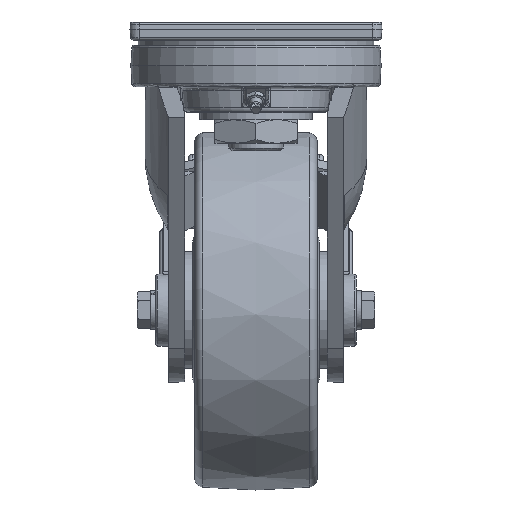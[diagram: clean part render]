
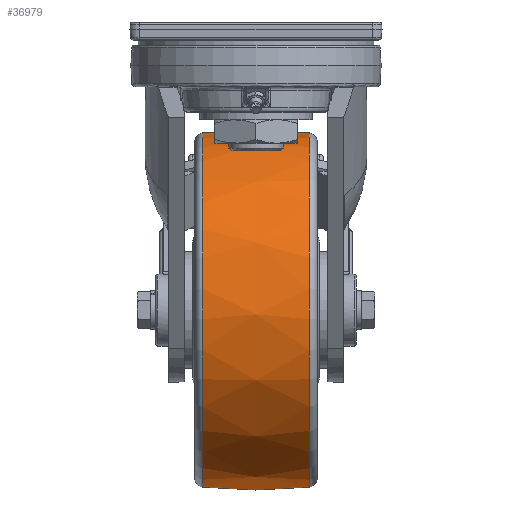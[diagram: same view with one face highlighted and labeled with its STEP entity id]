
A CAD part, left-side view. The second image highlights one B-rep face of the part: STEP entity #36979.
In plain terms, the highlighted free-form (B-spline) face has degree [2, 2] with [3, 9] control points.
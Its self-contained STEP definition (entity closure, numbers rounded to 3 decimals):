
#19=(
BOUNDED_SURFACE()
B_SPLINE_SURFACE(2,2,((#52536,#52537,#52538,#52539,#52540,#52541,#52542,
#52543,#52544),(#52545,#52546,#52547,#52548,#52549,#52550,#52551,#52552,
#52553),(#52554,#52555,#52556,#52557,#52558,#52559,#52560,#52561,#52562)),
 .UNSPECIFIED.,.F.,.T.,.F.)
B_SPLINE_SURFACE_WITH_KNOTS((3,3),(3,2,2,2,3),(-0.098,0.098),
(-3.142,-1.571,0.,1.571,3.142),
 .UNSPECIFIED.)
GEOMETRIC_REPRESENTATION_ITEM()
RATIONAL_B_SPLINE_SURFACE(((1.,0.707,1.,0.707,1.,
0.707,1.,0.707,1.),(0.995,0.704,
0.995,0.704,0.995,0.704,
0.995,0.704,0.995),(1.,0.707,
1.,0.707,1.,0.707,1.,0.707,1.)))
REPRESENTATION_ITEM('')
SURFACE()
);
#10045=FACE_OUTER_BOUND('',#12205,.T.);
#12205=EDGE_LOOP('',(#26398,#26399,#26400,#26401,#26402,#26403));
#14170=CIRCLE('',#39141,98.547);
#14171=CIRCLE('',#39142,98.547);
#14172=CIRCLE('',#39143,300.);
#14173=CIRCLE('',#39144,98.547);
#14174=CIRCLE('',#39145,98.547);
#15472=VERTEX_POINT('',#52531);
#15473=VERTEX_POINT('',#52533);
#15474=VERTEX_POINT('',#52563);
#15475=VERTEX_POINT('',#52565);
#19602=EDGE_CURVE('',#15472,#15473,#14170,.T.);
#19603=EDGE_CURVE('',#15473,#15472,#14171,.T.);
#19604=EDGE_CURVE('',#15472,#15474,#14172,.T.);
#19605=EDGE_CURVE('',#15474,#15475,#14173,.T.);
#19606=EDGE_CURVE('',#15475,#15474,#14174,.T.);
#26398=ORIENTED_EDGE('',*,*,#19603,.F.);
#26399=ORIENTED_EDGE('',*,*,#19602,.F.);
#26400=ORIENTED_EDGE('',*,*,#19604,.T.);
#26401=ORIENTED_EDGE('',*,*,#19605,.T.);
#26402=ORIENTED_EDGE('',*,*,#19606,.T.);
#26403=ORIENTED_EDGE('',*,*,#19604,.F.);
#36979=ADVANCED_FACE('',(#10045),#19,.F.);
#39141=AXIS2_PLACEMENT_3D('',#52534,#42323,#42324);
#39142=AXIS2_PLACEMENT_3D('',#52535,#42325,#42326);
#39143=AXIS2_PLACEMENT_3D('',#52564,#42327,#42328);
#39144=AXIS2_PLACEMENT_3D('',#52566,#42329,#42330);
#39145=AXIS2_PLACEMENT_3D('',#52567,#42331,#42332);
#42323=DIRECTION('center_axis',(0.,1.,0.));
#42324=DIRECTION('ref_axis',(-0.921,0.,-0.391));
#42325=DIRECTION('center_axis',(0.,1.,0.));
#42326=DIRECTION('ref_axis',(-0.921,0.,-0.391));
#42327=DIRECTION('center_axis',(0.391,0.,
-0.921));
#42328=DIRECTION('ref_axis',(0.921,0.,0.391));
#42329=DIRECTION('center_axis',(0.,1.,0.));
#42330=DIRECTION('ref_axis',(-0.921,0.,-0.391));
#42331=DIRECTION('center_axis',(0.,1.,0.));
#42332=DIRECTION('ref_axis',(-0.921,0.,-0.391));
#52531=CARTESIAN_POINT('',(165.721,29.492,-117.514));
#52533=CARTESIAN_POINT('',(36.514,29.492,-65.279));
#52534=CARTESIAN_POINT('Origin',(75.,29.492,-156.));
#52535=CARTESIAN_POINT('Origin',(75.,29.492,-156.));
#52536=CARTESIAN_POINT('Ctrl Pts',(165.721,-29.492,-117.514));
#52537=CARTESIAN_POINT('Ctrl Pts',(204.207,-29.492,-208.235));
#52538=CARTESIAN_POINT('Ctrl Pts',(113.486,-29.492,-246.721));
#52539=CARTESIAN_POINT('Ctrl Pts',(22.765,-29.492,-285.207));
#52540=CARTESIAN_POINT('Ctrl Pts',(-15.721,-29.492,
-194.486));
#52541=CARTESIAN_POINT('Ctrl Pts',(-54.207,-29.492,
-103.765));
#52542=CARTESIAN_POINT('Ctrl Pts',(36.514,-29.492,-65.279));
#52543=CARTESIAN_POINT('Ctrl Pts',(127.235,-29.492,-26.793));
#52544=CARTESIAN_POINT('Ctrl Pts',(165.721,-29.492,-117.514));
#52545=CARTESIAN_POINT('Ctrl Pts',(168.403,0.,
-116.376));
#52546=CARTESIAN_POINT('Ctrl Pts',(208.027,0.,
-209.779));
#52547=CARTESIAN_POINT('Ctrl Pts',(114.624,0.,
-249.403));
#52548=CARTESIAN_POINT('Ctrl Pts',(21.221,0.,
-289.027));
#52549=CARTESIAN_POINT('Ctrl Pts',(-18.403,0.,
-195.624));
#52550=CARTESIAN_POINT('Ctrl Pts',(-58.027,0.,
-102.221));
#52551=CARTESIAN_POINT('Ctrl Pts',(35.376,0.,
-62.597));
#52552=CARTESIAN_POINT('Ctrl Pts',(128.779,0.,
-22.973));
#52553=CARTESIAN_POINT('Ctrl Pts',(168.403,0.,
-116.376));
#52554=CARTESIAN_POINT('Ctrl Pts',(165.721,29.492,-117.514));
#52555=CARTESIAN_POINT('Ctrl Pts',(204.207,29.492,-208.235));
#52556=CARTESIAN_POINT('Ctrl Pts',(113.486,29.492,-246.721));
#52557=CARTESIAN_POINT('Ctrl Pts',(22.765,29.492,-285.207));
#52558=CARTESIAN_POINT('Ctrl Pts',(-15.721,29.492,-194.486));
#52559=CARTESIAN_POINT('Ctrl Pts',(-54.207,29.492,-103.765));
#52560=CARTESIAN_POINT('Ctrl Pts',(36.514,29.492,-65.279));
#52561=CARTESIAN_POINT('Ctrl Pts',(127.235,29.492,-26.793));
#52562=CARTESIAN_POINT('Ctrl Pts',(165.721,29.492,-117.514));
#52563=CARTESIAN_POINT('',(165.721,-29.492,-117.514));
#52564=CARTESIAN_POINT('Origin',(-109.117,0.,
-234.107));
#52565=CARTESIAN_POINT('',(36.514,-29.492,-65.279));
#52566=CARTESIAN_POINT('Origin',(75.,-29.492,-156.));
#52567=CARTESIAN_POINT('Origin',(75.,-29.492,-156.));
